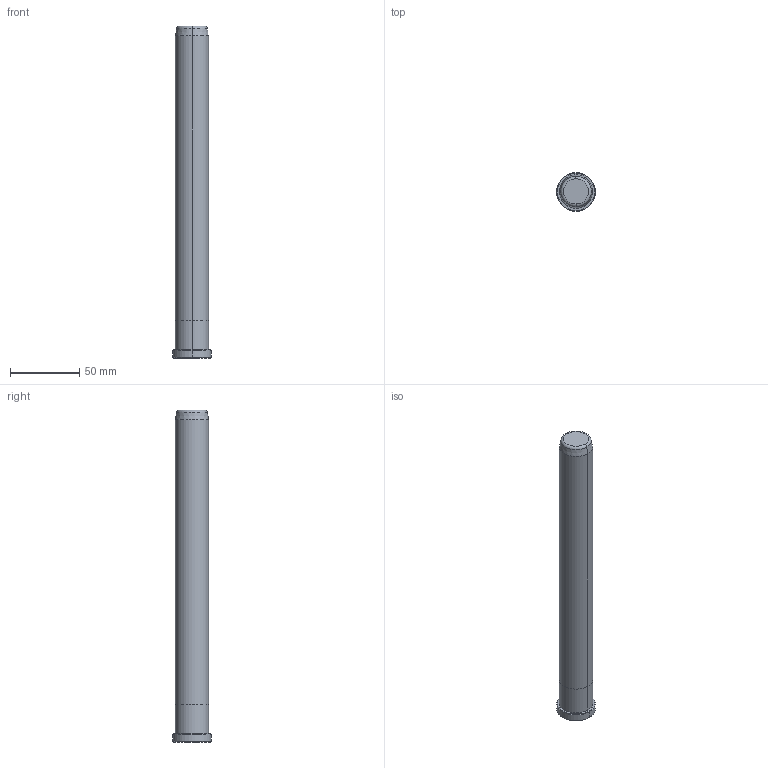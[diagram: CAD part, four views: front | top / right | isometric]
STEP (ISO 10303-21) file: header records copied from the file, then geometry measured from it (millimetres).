
FILE_DESCRIPTION((''),'2;1');
FILE_NAME('B82824240','2018-01-22T',('MANU'),(''),'PRO/ENGINEER BY PARAMETRIC TECHNOLOGY CORPORATION, 2012130','PRO/ENGINEER BY PARAMETRIC TECHNOLOGY CORPORATION, 2012130','');
FILE_SCHEMA(('CONFIG_CONTROL_DESIGN'));
Length unit declared in the file: millimetre
Products named in the file (1): B82824240
Bounding box: 28 x 28 x 240 mm (x, y, z)
Volume: 109196.1 mm3; surface area: 19204.4 mm2
Topology: 1 solids, 1 shells, 18 faces, 34 edges, 20 vertices
Faces by surface type: cone 6, cylinder 6, plane 4, torus 2
Entity records: 494 total; most frequent: DIRECTION 92, CARTESIAN_POINT 72, ORIENTED_EDGE 68, AXIS2_PLACEMENT_3D 40, EDGE_CURVE 34, CIRCLE 22, VERTEX_POINT 20, EDGE_LOOP 20
